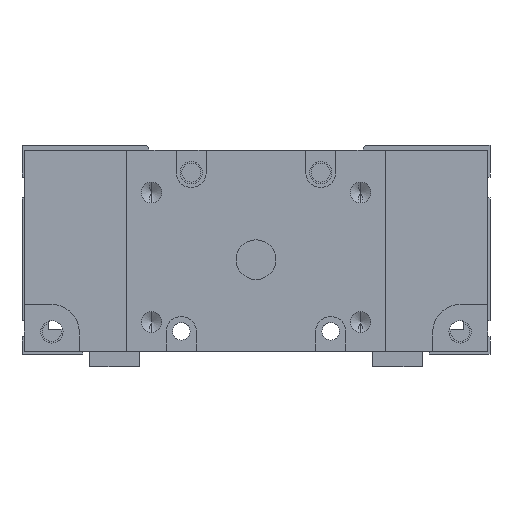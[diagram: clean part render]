
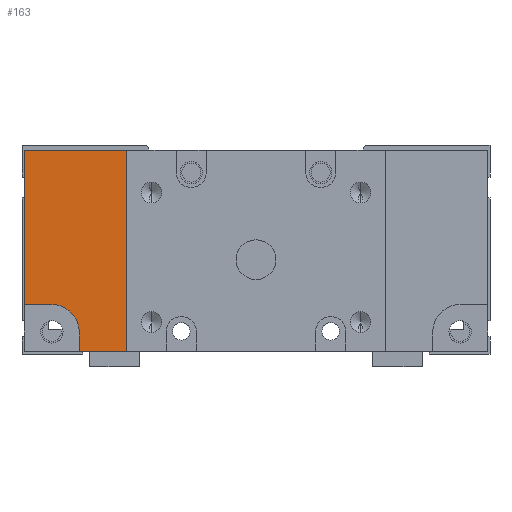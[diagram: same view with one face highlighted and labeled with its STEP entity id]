
A CAD part, front view. The second image highlights one B-rep face of the part: STEP entity #163.
In plain terms, the highlighted planar face has unit normal (0, -1, 0).
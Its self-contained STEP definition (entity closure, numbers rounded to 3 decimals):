
#142 = EDGE_CURVE ( 'NONE', #9090, #153, #2668, .T. ) ;
#152 = ORIENTED_EDGE ( 'NONE', *, *, #142, .F. ) ;
#153 = VERTEX_POINT ( 'NONE', #2726 ) ;
#154 = EDGE_LOOP ( 'NONE', ( #152, #164, #1244, #1248, #1251, #1254, #1245 ) ) ;
#160 = EDGE_CURVE ( 'NONE', #9632, #9032, #2721, .T. ) ;
#163 = ADVANCED_FACE ( 'NONE', ( #2713 ), #2679, .T. ) ;
#164 = ORIENTED_EDGE ( 'NONE', *, *, #9087, .T. ) ;
#1244 = ORIENTED_EDGE ( 'NONE', *, *, #160, .T. ) ;
#1245 = ORIENTED_EDGE ( 'NONE', *, *, #1255, .F. ) ;
#1247 = VERTEX_POINT ( 'NONE', #4388 ) ;
#1248 = ORIENTED_EDGE ( 'NONE', *, *, #9036, .T. ) ;
#1249 = EDGE_CURVE ( 'NONE', #1247, #8920, #4375, .T. ) ;
#1251 = ORIENTED_EDGE ( 'NONE', *, *, #8952, .T. ) ;
#1254 = ORIENTED_EDGE ( 'NONE', *, *, #1249, .F. ) ;
#1255 = EDGE_CURVE ( 'NONE', #153, #1247, #4338, .T. ) ;
#2667 = CARTESIAN_POINT ( 'NONE',  ( -35.5, -31., -16.5 ) ) ;
#2668 = LINE ( 'NONE', #2667, #2673 ) ;
#2673 = VECTOR ( 'NONE', #2728, 1000. ) ;
#2679 = PLANE ( 'NONE',  #2711 ) ;
#2698 = DIRECTION ( 'NONE',  ( 0., 0., -1. ) ) ;
#2699 = DIRECTION ( 'NONE',  ( 0., -1., 0. ) ) ;
#2706 = VECTOR ( 'NONE', #2718, 1000. ) ;
#2707 = CARTESIAN_POINT ( 'NONE',  ( -26., -31., -20.4 ) ) ;
#2711 = AXIS2_PLACEMENT_3D ( 'NONE', #2707, #2699, #2698 ) ;
#2713 = FACE_OUTER_BOUND ( 'NONE', #154, .T. ) ;
#2718 = DIRECTION ( 'NONE',  ( 0., 0., 1. ) ) ;
#2719 = CARTESIAN_POINT ( 'NONE',  ( -26., -31., -20.4 ) ) ;
#2721 = LINE ( 'NONE', #2719, #2706 ) ;
#2726 = CARTESIAN_POINT ( 'NONE',  ( -35.5, -31., -16.5 ) ) ;
#2728 = DIRECTION ( 'NONE',  ( 0., 0., 1. ) ) ;
#4338 = CIRCLE ( 'NONE', #4366, 5.5 ) ;
#4366 = AXIS2_PLACEMENT_3D ( 'NONE', #4387, #4431, #4430 ) ;
#4372 = DIRECTION ( 'NONE',  ( -1., 0., 0. ) ) ;
#4373 = VECTOR ( 'NONE', #4372, 1000. ) ;
#4374 = CARTESIAN_POINT ( 'NONE',  ( -41., -31., -11. ) ) ;
#4375 = LINE ( 'NONE', #4374, #4373 ) ;
#4387 = CARTESIAN_POINT ( 'NONE',  ( -41., -31., -16.5 ) ) ;
#4388 = CARTESIAN_POINT ( 'NONE',  ( -41., -31., -11. ) ) ;
#4430 = DIRECTION ( 'NONE',  ( 0., 0., 1. ) ) ;
#4431 = DIRECTION ( 'NONE',  ( 0., -1., 0. ) ) ;
#5776 = VECTOR ( 'NONE', #5810, 1000. ) ;
#5810 = DIRECTION ( 'NONE',  ( 1., 0., 0. ) ) ;
#7062 = CARTESIAN_POINT ( 'NONE',  ( -46.5, -31., -11. ) ) ;
#7103 = DIRECTION ( 'NONE',  ( 0., 0., -1. ) ) ;
#7104 = VECTOR ( 'NONE', #7103, 1000. ) ;
#7110 = CARTESIAN_POINT ( 'NONE',  ( -46.5, -31., 20. ) ) ;
#7111 = LINE ( 'NONE', #7110, #7104 ) ;
#7112 = CARTESIAN_POINT ( 'NONE',  ( -46.5, -31., 20. ) ) ;
#7214 = LINE ( 'NONE', #7265, #7263 ) ;
#7215 = CARTESIAN_POINT ( 'NONE',  ( -26., -31., 20. ) ) ;
#7262 = DIRECTION ( 'NONE',  ( -1., 0., 0. ) ) ;
#7263 = VECTOR ( 'NONE', #7262, 1000. ) ;
#7265 = CARTESIAN_POINT ( 'NONE',  ( -26., -31., 20. ) ) ;
#7315 = CARTESIAN_POINT ( 'NONE',  ( -46.5, -31., -20.4 ) ) ;
#7316 = LINE ( 'NONE', #7315, #5776 ) ;
#7373 = CARTESIAN_POINT ( 'NONE',  ( -35.5, -31., -20.4 ) ) ;
#8371 = CARTESIAN_POINT ( 'NONE',  ( -26., -31., -20.4 ) ) ;
#8920 = VERTEX_POINT ( 'NONE', #7062 ) ;
#8951 = VERTEX_POINT ( 'NONE', #7112 ) ;
#8952 = EDGE_CURVE ( 'NONE', #8951, #8920, #7111, .T. ) ;
#9032 = VERTEX_POINT ( 'NONE', #7215 ) ;
#9036 = EDGE_CURVE ( 'NONE', #9032, #8951, #7214, .T. ) ;
#9087 = EDGE_CURVE ( 'NONE', #9090, #9632, #7316, .T. ) ;
#9090 = VERTEX_POINT ( 'NONE', #7373 ) ;
#9632 = VERTEX_POINT ( 'NONE', #8371 ) ;
